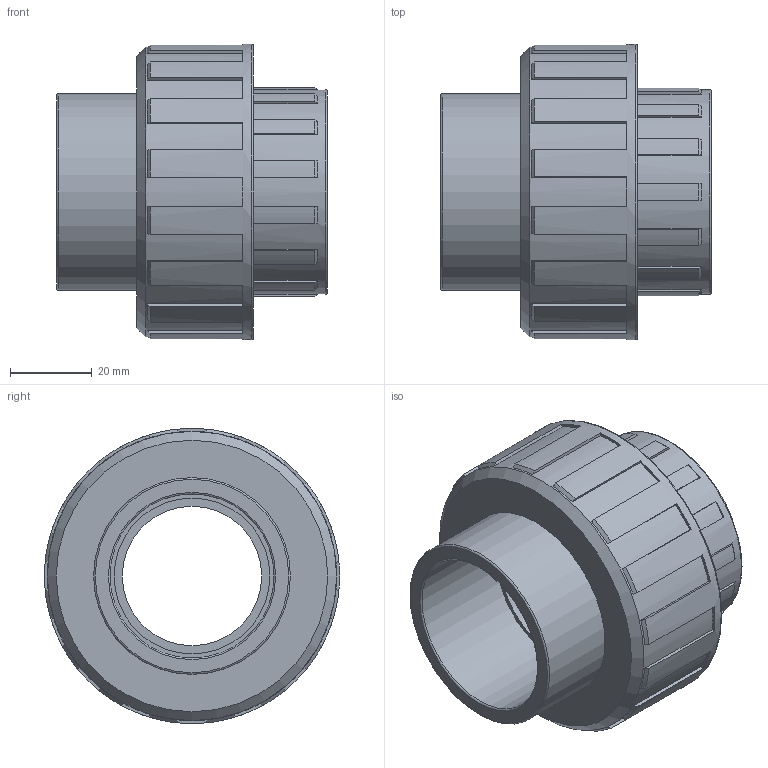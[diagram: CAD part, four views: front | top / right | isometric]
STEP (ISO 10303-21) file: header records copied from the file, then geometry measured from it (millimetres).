
FILE_DESCRIPTION(/* description */ ('PLASSON UNION+O RING THR-CEM 40-1.1/4"'),/* implementation_level */ '2;1');
FILE_NAME(/* name */ 'C:\Dropbox\KIMPROJECTS-Inventor\99-16-3568-Processing\PVC Catalog 2017\050802\050802040013.ipt.stp',/* time_stamp */ '2017-12-07T15:58:17+02:00',/* author */ ('KIM'),/* organization */ (''),/* preprocessor_version */ 'ST-DEVELOPER v15.6',/* originating_system */ 'Autodesk Inventor 2015',/* authorisation */ '');
FILE_SCHEMA (('AUTOMOTIVE_DESIGN { 1 0 10303 214 3 1 1 }'));
Length unit declared in the file: millimetre
Products named in the file (1): 050802040013
Bounding box: 66 x 72 x 72 mm (x, y, z)
Volume: 108149.6 mm3; surface area: 26727.9 mm2
Topology: 1 solids, 1 shells, 141 faces, 396 edges, 262 vertices
Faces by surface type: plane 83, cone 31, cylinder 22, torus 5
Full cylindrical faces by diameter (mm): 34 x1, 38 x1, 38.952 x1, 40 x1, 48 x1, 50 x1, 70.56 x1, 72 x1
Entity records: 4512 total; most frequent: DIRECTION 802, CARTESIAN_POINT 780, ORIENTED_EDGE 758, EDGE_CURVE 379, AXIS2_PLACEMENT_3D 281, VERTEX_POINT 259, LINE 240, VECTOR 240
